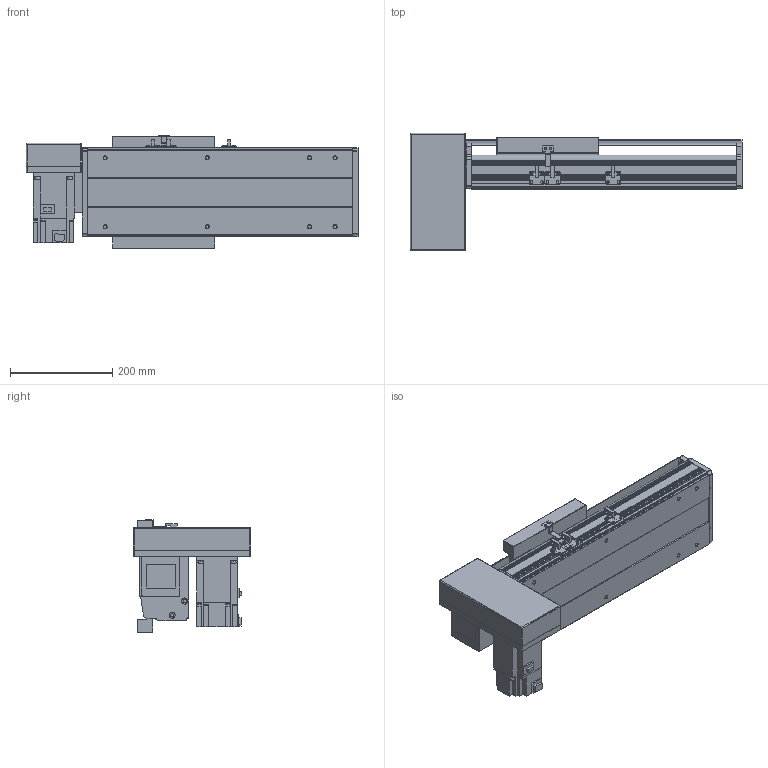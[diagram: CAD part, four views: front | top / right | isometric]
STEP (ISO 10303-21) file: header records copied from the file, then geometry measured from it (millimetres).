
FILE_DESCRIPTION(/* description */ ('STEP AP214'),/* implementation_level */ '2;1');
FILE_NAME(/* name */ 'PBS200-P40-S150-RD-T75-C1-N(0)',/* time_stamp */ '2022-06-11T09:27:04+02:00',/* author */ ('License CC BY-ND 4.0'),/* organization */ ('CADENAS'),/* preprocessor_version */ 'ST-DEVELOPER v18.102',/* originating_system */ 'PARTsolutions',/* authorisation */ ' ');
FILE_SCHEMA (('AUTOMOTIVE_DESIGN {1 0 10303 214 3 1 1}'));
Length unit declared in the file: millimetre
Products named in the file (7): PBS200-P40-S150-RD-T75-C1-N(0); PBS200_sensor; PBS200_plant; PBS200_sliser; T75-p1; PBS200T-RD_motors; PBS200-S150()_body
Assembly tree (8 placements, depth 2):
  PBS200-P40-S150-RD-T75-C1-N(0)
    PBS200_sensor  x3
    PBS200_plant
    PBS200_sliser
    T75-p1
    PBS200T-RD_motors
    PBS200-S150()_body
Bounding box: 650 x 230 x 221 mm (x, y, z)
Volume: 5929111.1 mm3; surface area: 982935.6 mm2
Topology: 8 solids, 8 shells, 896 faces, 2334 edges, 1524 vertices
Faces by surface type: plane 566, cylinder 290, cone 40
Full cylindrical faces by diameter (mm): 2.459 x6, 3.242 x4, 4.5 x6, 4.917 x4, 5 x6, 6 x7, 6.6 x8, 6.647 x12, 8 x6, 10 x4, 12 x8, 38 x2, 40 x1, 70 x1
Entity records: 24101 total; most frequent: DIRECTION 4231, CARTESIAN_POINT 4120, ORIENTED_EDGE 3934, EDGE_CURVE 1967, AXIS2_PLACEMENT_3D 1459, VERTEX_POINT 1348, LINE 1313, VECTOR 1313
